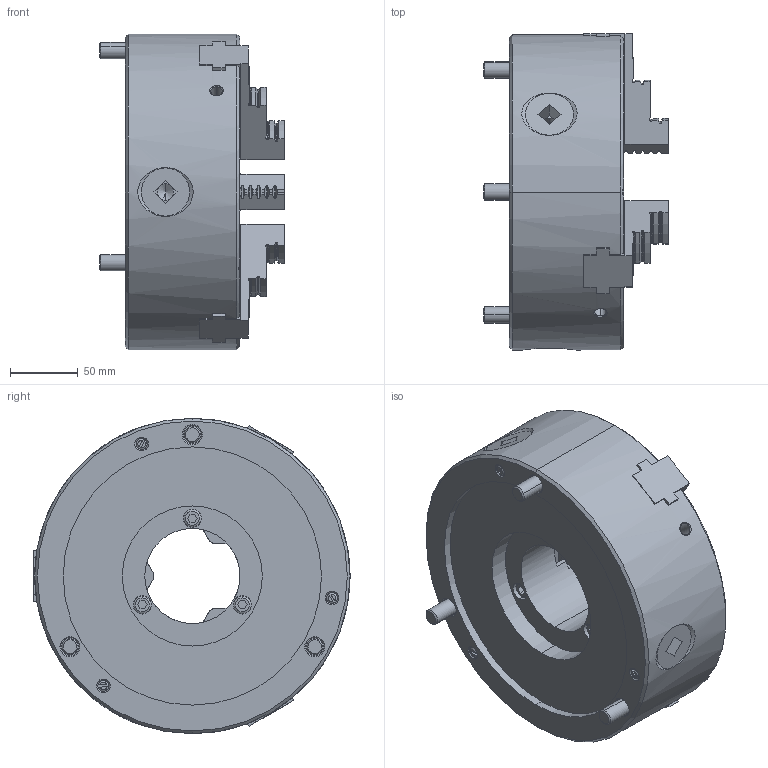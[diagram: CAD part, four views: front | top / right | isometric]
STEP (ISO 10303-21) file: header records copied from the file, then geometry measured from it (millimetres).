
FILE_DESCRIPTION (( 'STEP AP214' ), '1' );
FILE_NAME ('HP-61S211488_クミタテ.STEP', '2026-03-18T02:13:34', ( '' ), ( '' ), 'SwSTEP 2.0', 'SolidWorks 2022', '' );
FILE_SCHEMA (( 'AUTOMOTIVE_DESIGN' ));
Length unit declared in the file: millimetre
Products named in the file (3): Part3^HP-61S211488_クミタテ; HP-61S211488_クミタテ; 61S313396_ウチヅメ
Assembly tree (4 placements, depth 2):
  HP-61S211488_クミタテ
    61S313396_ウチヅメ  x3
    Part3^HP-61S211488_クミタテ
Bounding box: 136 x 232.5 x 232 mm (x, y, z)
Volume: 3112680.7 mm3; surface area: 265293.4 mm2
Topology: 4 solids, 10 shells, 936 faces, 2494 edges, 1624 vertices
Faces by surface type: plane 447, cylinder 171, cone 166, bspline 96, torus 52, sphere 4
Entity records: 27576 total; most frequent: CARTESIAN_POINT 9648, ORIENTED_EDGE 3866, DIRECTION 3331, EDGE_CURVE 1933, VERTEX_POINT 1265, VECTOR 1149, LINE 1149, AXIS2_PLACEMENT_3D 1091
